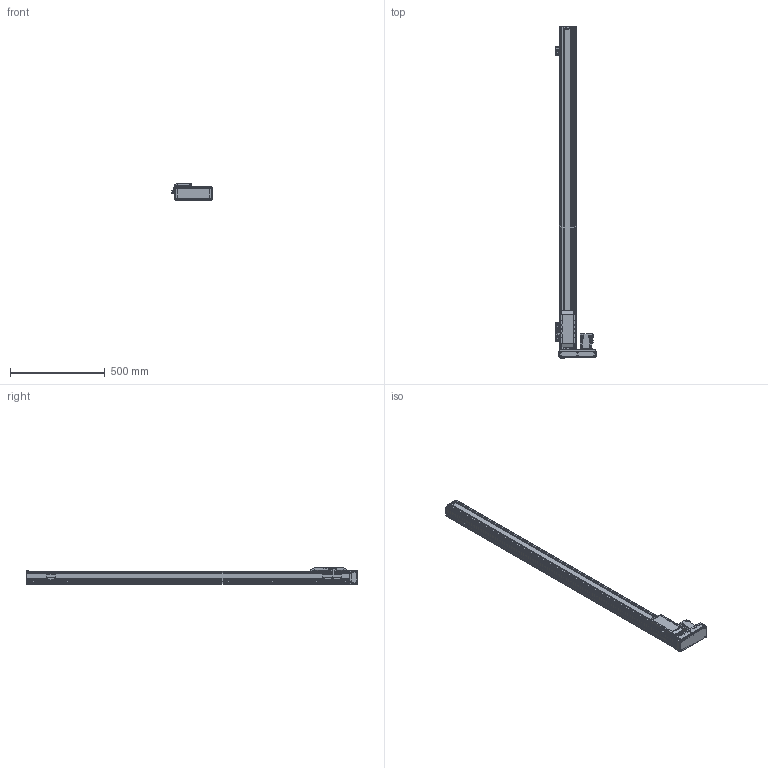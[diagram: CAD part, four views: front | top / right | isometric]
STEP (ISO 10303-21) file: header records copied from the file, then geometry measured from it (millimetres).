
FILE_DESCRIPTION(/* description */ (''),/* implementation_level */ '2;1');
FILE_NAME(/* name */ '\\192.168.0.160\disk1\HAN SHIN Master\B-설계부문\C-표준\B-2024년\BC02-표준도면\+로봇 개선표준도면\표준 승인도 폴더 - 재작업\3D\HC Type\HC90\우병렬\HC90-R20-N1B-1500-L10.stp',/* time_stamp */ '2024-03-15T15:38:15+09:00',/* author */ ('User'),/* organization */ (''),/* preprocessor_version */ 'ST-DEVELOPER v18.1',/* originating_system */ 'Autodesk Inventor 2022',/* authorisation */ '');
FILE_SCHEMA (('AUTOMOTIVE_DESIGN { 1 0 10303 214 3 1 1 }'));
Products named in the file (29): HC90-R20-N1B-0500-L10 - 간소화; HC90 S BASE 200W--; HC75-REAR BLOCK; HC75-REAR BLOCK_1; HC90 REAR COVER; HC90-UP COVER; HC90 SIDE COVER 100W G; STOPPER3; M-5UT; M-5H-4; HC75 TABLE COVER; HC65 TABLE SIDE COVER; HC75,90 SHEET PLATE; LMKE1520 NUT; HC90 TABLE - SR20W - OIL; STOPPER3_1; MOTOR PLATE - 200W; hg-kr23_; HR65-LR-BELT COVER; HC90-BELT COVER-COVER2; HR75-D-BELT COVER-COVER; HC90-BELT COVER-COVER3; 화살표; HC90 LR MOTOR PLATE_MIR; HC75 SENSOR DOG; SENSOR BRK(EE-SX674A); EE_SX674A; hsr_ftht_A-M6F_grease_nipple_joint; NIPPLE CAP(신규)
Assembly tree (39 placements, depth 2):
  HC90-R20-N1B-0500-L10 - 간소화
    HC90 S BASE 200W--
    HC90 SIDE COVER 100W G  x2
    HC75-REAR BLOCK
    HC75-REAR BLOCK_1
    HC90 REAR COVER
    HC90-UP COVER
    STOPPER3
    M-5H-4  x2
    M-5UT
    HC65 TABLE SIDE COVER  x2
    HC75 TABLE COVER
    HC75,90 SHEET PLATE  x3
    LMKE1520 NUT
    HC90 TABLE - SR20W - OIL
    STOPPER3_1
    MOTOR PLATE - 200W
    hg-kr23_
    HR65-LR-BELT COVER
    HC90-BELT COVER-COVER2
    HR75-D-BELT COVER-COVER
    HC90-BELT COVER-COVER3  x2
    화살표  x2
    HC90 LR MOTOR PLATE_MIR
    EE_SX674A  x3
    HC75 SENSOR DOG
    SENSOR BRK(EE-SX674A)  x3
    hsr_ftht_A-M6F_grease_nipple_joint
    NIPPLE CAP(신규)
Bounding box: 215 x 1752 x 88 mm (x, y, z)
Volume: 3291436.4 mm3; surface area: 1742187 mm2
Topology: 41 solids, 41 shells, 2851 faces, 7876 edges, 5181 vertices
Faces by surface type: plane 1927, cylinder 710, cone 196, sphere 8, torus 6, bspline 4
Full cylindrical faces by diameter (mm): 1.8 x2, 2.459 x56, 2.5 x3, 3 x8, 3.242 x43, 3.4 x28, 3.5 x16, 4 x2, 4.134 x48, 4.5 x37, 4.917 x3, 5 x29, 5.5 x18, 5.6 x9, 5.8 x4, 5.9 x8, 6 x5, 6.5 x4, 6.8 x1, 7 x3, 8 x2, 9.5 x14, 10.5 x4, 14 x1, 15 x3, 17 x1, 20 x1, 22 x1, 25 x1, 28 x1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
Entity records: 80977 total; most frequent: CARTESIAN_POINT 14761, ORIENTED_EDGE 13404, DIRECTION 12878, EDGE_CURVE 6702, LINE 5202, VECTOR 5202, VERTEX_POINT 4453, AXIS2_PLACEMENT_3D 3838
